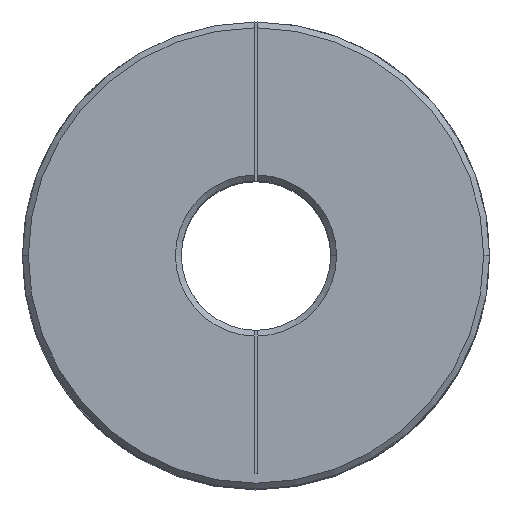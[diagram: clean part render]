
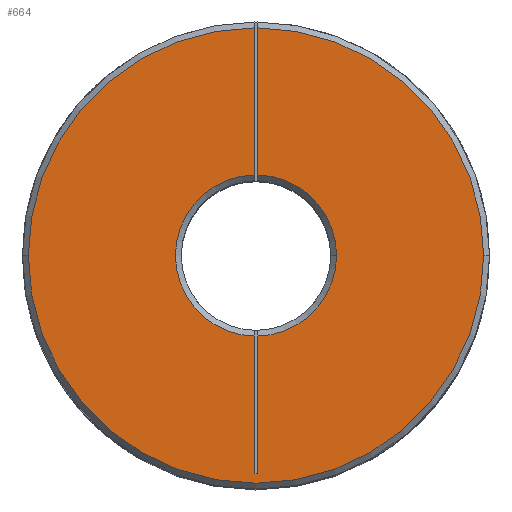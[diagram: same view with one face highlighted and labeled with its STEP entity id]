
A CAD part, top view. The second image highlights one B-rep face of the part: STEP entity #664.
In plain terms, the highlighted planar face has unit normal (0, 0, 1).
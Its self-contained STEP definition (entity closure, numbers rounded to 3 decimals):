
#603 = EDGE_CURVE ( 'NONE', #604, #624, #2226, .T. ) ;
#604 = VERTEX_POINT ( 'NONE', #2217 ) ;
#616 = EDGE_CURVE ( 'NONE', #617, #622, #2261, .T. ) ;
#617 = VERTEX_POINT ( 'NONE', #2256 ) ;
#622 = VERTEX_POINT ( 'NONE', #2251 ) ;
#624 = VERTEX_POINT ( 'NONE', #2249 ) ;
#634 = EDGE_CURVE ( 'NONE', #635, #604, #2294, .T. ) ;
#635 = VERTEX_POINT ( 'NONE', #2290 ) ;
#658 = VERTEX_POINT ( 'NONE', #2309 ) ;
#660 = EDGE_CURVE ( 'NONE', #658, #718, #2308, .T. ) ;
#664 = ADVANCED_FACE ( 'NONE', ( #2300 ), #2299, .T. ) ;
#665 = EDGE_LOOP ( 'NONE', ( #666, #668, #669, #671, #672, #673, #676, #679, #682, #684, #685 ) ) ;
#666 = ORIENTED_EDGE ( 'NONE', *, *, #667, .F. ) ;
#667 = EDGE_CURVE ( 'NONE', #617, #624, #2357, .T. ) ;
#668 = ORIENTED_EDGE ( 'NONE', *, *, #616, .T. ) ;
#669 = ORIENTED_EDGE ( 'NONE', *, *, #670, .T. ) ;
#670 = EDGE_CURVE ( 'NONE', #622, #719, #2353, .T. ) ;
#671 = ORIENTED_EDGE ( 'NONE', *, *, #717, .F. ) ;
#672 = ORIENTED_EDGE ( 'NONE', *, *, #660, .F. ) ;
#673 = ORIENTED_EDGE ( 'NONE', *, *, #674, .F. ) ;
#674 = EDGE_CURVE ( 'NONE', #675, #658, #2348, .T. ) ;
#675 = VERTEX_POINT ( 'NONE', #2344 ) ;
#676 = ORIENTED_EDGE ( 'NONE', *, *, #677, .T. ) ;
#677 = EDGE_CURVE ( 'NONE', #675, #678, #2343, .T. ) ;
#678 = VERTEX_POINT ( 'NONE', #2338 ) ;
#679 = ORIENTED_EDGE ( 'NONE', *, *, #680, .F. ) ;
#680 = EDGE_CURVE ( 'NONE', #681, #678, #2337, .T. ) ;
#681 = VERTEX_POINT ( 'NONE', #2333 ) ;
#682 = ORIENTED_EDGE ( 'NONE', *, *, #683, .T. ) ;
#683 = EDGE_CURVE ( 'NONE', #681, #635, #2331, .T. ) ;
#684 = ORIENTED_EDGE ( 'NONE', *, *, #634, .T. ) ;
#685 = ORIENTED_EDGE ( 'NONE', *, *, #603, .T. ) ;
#717 = EDGE_CURVE ( 'NONE', #718, #719, #2396, .T. ) ;
#718 = VERTEX_POINT ( 'NONE', #2392 ) ;
#719 = VERTEX_POINT ( 'NONE', #2391 ) ;
#2217 = CARTESIAN_POINT ( 'NONE',  ( 24.375, 0., 58. ) ) ;
#2218 = DIRECTION ( 'NONE',  ( 1., 0., 0. ) ) ;
#2219 = DIRECTION ( 'NONE',  ( 0., 0., 1. ) ) ;
#2220 = CARTESIAN_POINT ( 'NONE',  ( 0., 0., 58. ) ) ;
#2221 = AXIS2_PLACEMENT_3D ( 'NONE', #2220, #2219, #2218 ) ;
#2226 = CIRCLE ( 'NONE', #2221, 24.375 ) ;
#2238 = CARTESIAN_POINT ( 'NONE',  ( 0., 0., 58. ) ) ;
#2249 = CARTESIAN_POINT ( 'NONE',  ( 0.125, 24.375, 58. ) ) ;
#2251 = CARTESIAN_POINT ( 'NONE',  ( 8.625, 0., 58. ) ) ;
#2256 = CARTESIAN_POINT ( 'NONE',  ( 0.125, 8.624, 58. ) ) ;
#2257 = DIRECTION ( 'NONE',  ( 1., 0., 0. ) ) ;
#2258 = DIRECTION ( 'NONE',  ( 0., 0., -1. ) ) ;
#2259 = CARTESIAN_POINT ( 'NONE',  ( 0., 0., 58. ) ) ;
#2260 = AXIS2_PLACEMENT_3D ( 'NONE', #2259, #2258, #2257 ) ;
#2261 = CIRCLE ( 'NONE', #2260, 8.625 ) ;
#2290 = CARTESIAN_POINT ( 'NONE',  ( -24.375, 0., 58. ) ) ;
#2291 = DIRECTION ( 'NONE',  ( 1., 0., 0. ) ) ;
#2292 = DIRECTION ( 'NONE',  ( 0., 0., 1. ) ) ;
#2293 = AXIS2_PLACEMENT_3D ( 'NONE', #2238, #2292, #2291 ) ;
#2294 = CIRCLE ( 'NONE', #2293, 24.375 ) ;
#2296 = DIRECTION ( 'NONE',  ( 0., 0., 1. ) ) ;
#2297 = CARTESIAN_POINT ( 'NONE',  ( 0., 0., 58. ) ) ;
#2298 = AXIS2_PLACEMENT_3D ( 'NONE', #2297, #2296, #2358 ) ;
#2299 = PLANE ( 'NONE',  #2298 ) ;
#2300 = FACE_OUTER_BOUND ( 'NONE', #665, .T. ) ;
#2305 = DIRECTION ( 'NONE',  ( 1., 0., 0. ) ) ;
#2306 = VECTOR ( 'NONE', #2305, 1000. ) ;
#2307 = CARTESIAN_POINT ( 'NONE',  ( -0.125, -23.374, 58. ) ) ;
#2308 = LINE ( 'NONE', #2307, #2306 ) ;
#2309 = CARTESIAN_POINT ( 'NONE',  ( -0.125, -23.374, 58. ) ) ;
#2328 = DIRECTION ( 'NONE',  ( 0., 0., 1. ) ) ;
#2329 = CARTESIAN_POINT ( 'NONE',  ( 0., 0., 58. ) ) ;
#2330 = AXIS2_PLACEMENT_3D ( 'NONE', #2329, #2328, #2389 ) ;
#2331 = CIRCLE ( 'NONE', #2330, 24.375 ) ;
#2333 = CARTESIAN_POINT ( 'NONE',  ( -0.125, 24.375, 58. ) ) ;
#2334 = DIRECTION ( 'NONE',  ( 0., -1., 0. ) ) ;
#2335 = VECTOR ( 'NONE', #2334, 1000. ) ;
#2336 = CARTESIAN_POINT ( 'NONE',  ( -0.125, 25., 58. ) ) ;
#2337 = LINE ( 'NONE', #2336, #2335 ) ;
#2338 = CARTESIAN_POINT ( 'NONE',  ( -0.125, 8.624, 58. ) ) ;
#2339 = DIRECTION ( 'NONE',  ( 1., 0., 0. ) ) ;
#2340 = DIRECTION ( 'NONE',  ( 0., 0., -1. ) ) ;
#2341 = CARTESIAN_POINT ( 'NONE',  ( 0., 0., 58. ) ) ;
#2342 = AXIS2_PLACEMENT_3D ( 'NONE', #2341, #2340, #2339 ) ;
#2343 = CIRCLE ( 'NONE', #2342, 8.625 ) ;
#2344 = CARTESIAN_POINT ( 'NONE',  ( -0.125, -8.624, 58. ) ) ;
#2345 = DIRECTION ( 'NONE',  ( 0., -1., 0. ) ) ;
#2346 = VECTOR ( 'NONE', #2345, 1000. ) ;
#2347 = CARTESIAN_POINT ( 'NONE',  ( -0.125, 0., 58. ) ) ;
#2348 = LINE ( 'NONE', #2347, #2346 ) ;
#2349 = DIRECTION ( 'NONE',  ( 1., 0., 0. ) ) ;
#2350 = DIRECTION ( 'NONE',  ( 0., 0., -1. ) ) ;
#2351 = CARTESIAN_POINT ( 'NONE',  ( 0., 0., 58. ) ) ;
#2352 = AXIS2_PLACEMENT_3D ( 'NONE', #2351, #2350, #2349 ) ;
#2353 = CIRCLE ( 'NONE', #2352, 8.625 ) ;
#2354 = DIRECTION ( 'NONE',  ( 0., 1., 0. ) ) ;
#2355 = VECTOR ( 'NONE', #2354, 1000. ) ;
#2356 = CARTESIAN_POINT ( 'NONE',  ( 0.125, 25., 58. ) ) ;
#2357 = LINE ( 'NONE', #2356, #2355 ) ;
#2358 = DIRECTION ( 'NONE',  ( 1., 0., 0. ) ) ;
#2389 = DIRECTION ( 'NONE',  ( 1., 0., 0. ) ) ;
#2391 = CARTESIAN_POINT ( 'NONE',  ( 0.125, -8.624, 58. ) ) ;
#2392 = CARTESIAN_POINT ( 'NONE',  ( 0.125, -23.374, 58. ) ) ;
#2393 = DIRECTION ( 'NONE',  ( 0., 1., 0. ) ) ;
#2394 = VECTOR ( 'NONE', #2393, 1000. ) ;
#2395 = CARTESIAN_POINT ( 'NONE',  ( 0.125, 25., 58. ) ) ;
#2396 = LINE ( 'NONE', #2395, #2394 ) ;
